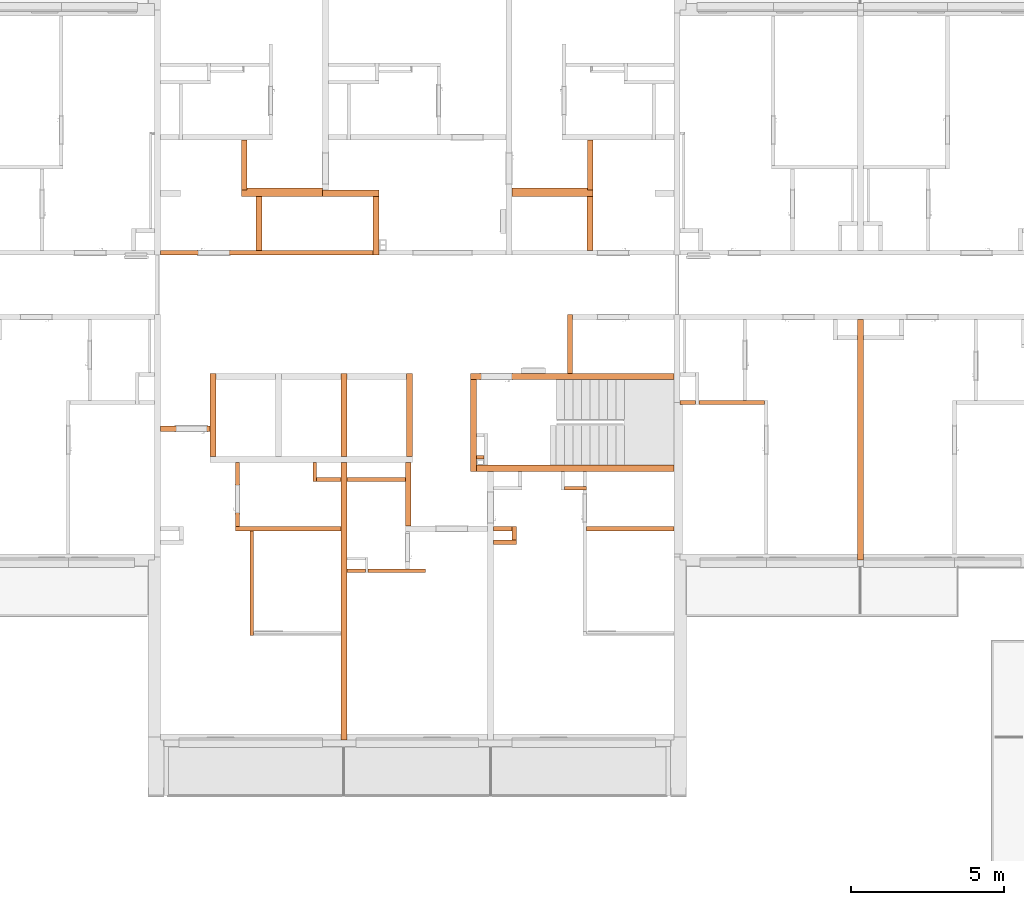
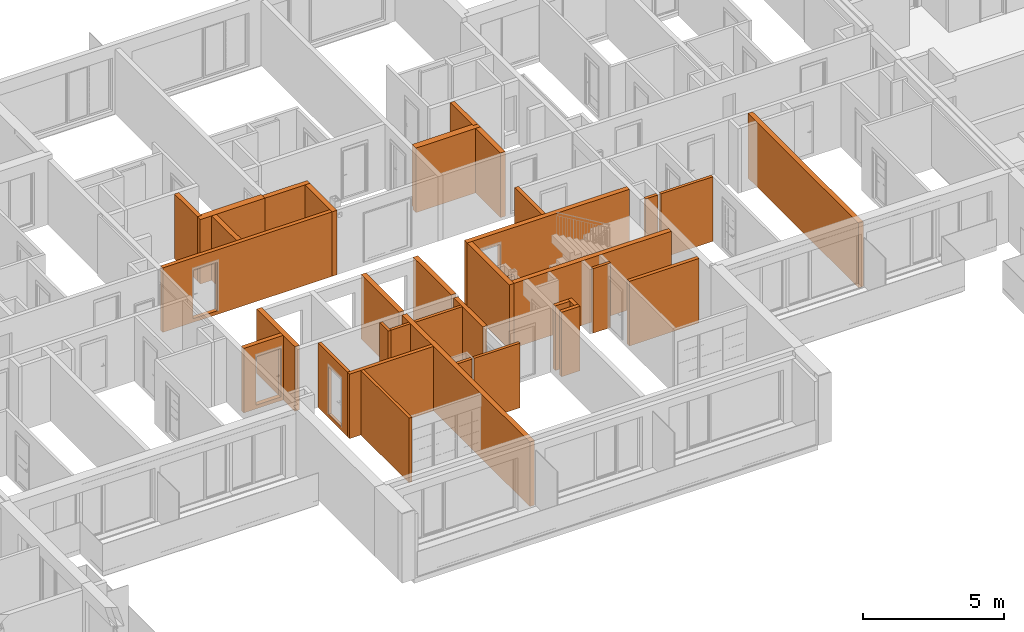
# One storey, part 55 of 64: 34 proxies, 5 openings.
"""IFC2X3 building model written with IfcOpenShell, lengths in millimetres."""

from ifc_helpers import new_model, entity, si_unit, converted_unit, derived_unit, money_unit, direction, frame, origin_with_axes, origin_2d_with_axis, place, context, subcontext, project, spatial, rectangle, extrude, faceted_brep, material, material_list, type_object, element, save


model = new_model("IFC2X3")

# Units and contexts
model_context = context("Model", 3, precision=0.01, world=origin_with_axes(), true_north=direction((0.34421633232, 0.938890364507)))
body_context = subcontext(model_context, "Body", "Model", "MODEL_VIEW")
ifc_project = project(units=[si_unit("LENGTHUNIT", "METRE", prefix="MILLI"), si_unit("AREAUNIT", "SQUARE_METRE"), si_unit("VOLUMEUNIT", "CUBIC_METRE"), converted_unit("PLANEANGLEUNIT", "DEGREE", entity("IfcPlaneAngleMeasure", 0.0174532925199), si_unit("PLANEANGLEUNIT", "RADIAN"), dimensions=[0, 0, 0, 0, 0, 0, 0]), si_unit("SOLIDANGLEUNIT", "STERADIAN"), money_unit("USD"), converted_unit("TIMEUNIT", "Year", entity("IfcTimeMeasure", 31556926.0), si_unit("TIMEUNIT", "SECOND"), dimensions=[0, 0, 1, 0, 0, 0, 0]), si_unit("MASSUNIT", "GRAM", prefix="KILO"), si_unit("THERMODYNAMICTEMPERATUREUNIT", "DEGREE_CELSIUS"), si_unit("LUMINOUSINTENSITYUNIT", "LUMEN"), si_unit("ENERGYUNIT", "JOULE", prefix="MEGA"), derived_unit("THERMALCONDUCTANCEUNIT", [(si_unit("POWERUNIT", "WATT"), 1), (si_unit("LENGTHUNIT", "METRE"), -1), (si_unit("THERMODYNAMICTEMPERATUREUNIT", "KELVIN"), -1)]), derived_unit("SPECIFICHEATCAPACITYUNIT", [(si_unit("ENERGYUNIT", "JOULE"), 1), (si_unit("MASSUNIT", "GRAM", prefix="KILO"), -1), (si_unit("THERMODYNAMICTEMPERATUREUNIT", "KELVIN"), -1)]), derived_unit("MASSDENSITYUNIT", [(si_unit("MASSUNIT", "GRAM", prefix="KILO"), 1), (si_unit("VOLUMEUNIT", "CUBIC_METRE"), -1)])], contexts=[model_context])

# Site, building, storey
site_placement = place(None, origin_with_axes())
site = spatial("IfcSite", under=ifc_project, at=site_placement, Name="USTRONIE MORSKIE", CompositionType="ELEMENT")
building_placement = place(site_placement, origin_with_axes())
building = spatial("IfcBuilding", under=site, at=building_placement, Name="Budynek", CompositionType="ELEMENT")
storey_placement = place(building_placement, frame((0.0, 0.0, 7000.0), z_axis=(0.0, 0.0, 1.0), x_axis=(1.0, 0.0, 0.0)))
storey = spatial("IfcBuildingStorey", under=building, at=storey_placement, Name="PIĘTRO 2", CompositionType="ELEMENT", Elevation=7000.0)

# Proxies
ifc_material_1 = material(Name="Bloczki silikatowe")
building_element_proxy_type_1 = type_object("IfcBuildingElementProxyType", Name="Bloczki silikatowe 120", PredefinedType="NOTDEFINED")
proxy_1_placement = place(storey_placement, frame((396317.920919, 731951.199132, -160.0), z_axis=(0.0, 0.0, 1.0), x_axis=(1.0, 0.0, 0.0)))
element("IfcBuildingElementProxy", 1, at=proxy_1_placement, inside=storey, type_object=building_element_proxy_type_1, material=ifc_material_1, Name="SW-04", context=body_context, shape_type="Brep", body=[
    faceted_brep([(600.004475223, 59.9999999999, 0.0), (100.0, 59.9999999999, 0.0), (100.0, 59.9999999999, 2800.0), (600.004475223, 59.9999999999, 2800.0), (100.0, -59.9999999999, 0.0), (100.0, 0.0, 0.0), (600.008213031, -59.9999999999, 0.0), (100.0, 0.0, 2800.0), (100.0, -59.9999999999, 2800.0), (600.008213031, -59.9999999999, 2800.0)], [[[0, 1, 2, 3]], [[4, 5, 1, 0, 6]], [[5, 7, 2, 1]], [[2, 7, 8, 9, 3]], [[6, 0, 3, 9]], [[4, 8, 7, 5]], [[9, 8, 4, 6]]]),
    faceted_brep([(720.004475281, 59.9999999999, 0.0), (720.004475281, 59.9999999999, 2800.0), (2860.01935038, 59.9999999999, 2800.0), (2860.01935038, 59.9999999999, 0.0), (720.008213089, -59.9999999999, 2800.0), (720.008213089, -59.9999999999, 0.0), (2860.01935038, -59.9999999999, 2800.0), (2860.01935038, -59.9999999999, 0.0)], [[[0, 1, 2, 3]], [[4, 1, 0, 5]], [[1, 4, 6, 2]], [[3, 2, 6, 7]], [[5, 0, 3, 7]], [[4, 5, 7, 6]]]),
])
proxy_2_placement = place(storey_placement, frame((384517.920018, 729491.199036, -160.0), z_axis=(0.0, 0.0, 1.0), x_axis=(0.0, 1.0, 0.0)))
element("IfcBuildingElementProxy", 2, at=proxy_2_placement, inside=storey, type_object=building_element_proxy_type_1, material=ifc_material_1, Name="SW-04", context=body_context, shape_type="Brep", body=[
    faceted_brep([(500.0, 120.0, 0.0), (500.0, 0.0, 0.0), (-120.0, 0.0, 0.0), (-120.0, 120.0, 0.0), (500.0, 120.0, 2800.0), (500.0, 0.0, 2800.0), (-120.0, 0.0, 2800.0), (-120.0, 120.0, 2800.0)], [[[0, 1, 2, 3]], [[1, 0, 4, 5]], [[1, 5, 6, 2]], [[7, 3, 2, 6]], [[4, 0, 3, 7]], [[5, 4, 7, 6]]]),
])
proxy_3_placement = place(storey_placement, frame((387527.920919, 729491.199036, -160.0), z_axis=(0.0, 0.0, 1.0), x_axis=(-1.0, 0.0, 0.0)))
element("IfcBuildingElementProxy", 3, at=proxy_3_placement, inside=storey, type_object=building_element_proxy_type_1, material=ifc_material_1, Name="SW-04", context=body_context, shape_type="Brep", body=[
    faceted_brep([(90.0, 0.0, 0.0), (2010.0, 0.0, 0.0), (2010.0, 0.0, 2800.0), (90.0, 0.0, 2800.0), (90.0, 120.0, 0.0), (2010.0, 120.0, 0.0), (2010.0, 120.0, 2800.0), (90.0, 120.0, 2800.0)], [[[0, 1, 2, 3]], [[4, 5, 1, 0]], [[5, 6, 2, 1]], [[3, 2, 6, 7]], [[7, 4, 0, 3]], [[7, 6, 5, 4]]]),
])
proxy_4_placement = place(storey_placement, frame((385417.920919, 726446.199036, -160.0), z_axis=(0.0, 0.0, 1.0), x_axis=(1.0, 0.0, 0.0)))
element("IfcBuildingElementProxy", 4, at=proxy_4_placement, inside=storey, type_object=building_element_proxy_type_1, material=ifc_material_1, Name="SW-04", context=body_context, shape_type="Brep", body=[
    faceted_brep([(700.000154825, 59.9999999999, 0.0), (700.000154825, -59.9999999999, 0.0), (100.0, -59.9999999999, 0.0), (100.0, 59.9999999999, 0.0), (700.000154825, 59.9999999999, 2800.0), (700.000154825, -59.9999999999, 2800.0), (100.0, -59.9999999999, 2800.0), (100.0, 59.9999999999, 2800.0)], [[[0, 1, 2, 3]], [[1, 0, 4, 5]], [[1, 5, 6, 2]], [[7, 3, 2, 6]], [[4, 0, 3, 7]], [[5, 4, 7, 6]]]),
    faceted_brep([(780.000154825, 59.9999999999, 0.0), (2670.0, 59.9999999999, 0.0), (2670.0, -59.9999999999, 0.0), (780.000154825, -59.9999999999, 0.0), (780.000154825, 59.9999999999, 2800.0), (2670.0, 59.9999999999, 2800.0), (2670.0, -59.9999999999, 2800.0), (780.000154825, -59.9999999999, 2800.0)], [[[0, 1, 2, 3]], [[4, 5, 1, 0]], [[2, 1, 5, 6]], [[3, 2, 6, 7]], [[4, 0, 3, 7]], [[7, 6, 5, 4]]]),
])

# Proxy, opening
proxy_5_placement = place(storey_placement, frame((381937.920919, 727826.199036, -160.0), z_axis=(0.0, 0.0, 1.0), x_axis=(0.0, 1.0, 0.0)))
proxy_5 = element("IfcBuildingElementProxy", 5, at=proxy_5_placement, inside=storey, type_object=building_element_proxy_type_1, material=ifc_material_1, Name="SW-04", context=body_context, shape_type="Brep", body=[
    faceted_brep([(2165.0, 60.0, 0.0), (2165.0, -60.0, 0.0), (75.0, -60.0, 0.0), (75.0, 60.0, 0.0), (2165.0, 60.0, 2800.0), (2165.0, -60.0, 2800.0), (75.0, -60.0, 2800.0), (75.0, 60.0, 2800.0)], [[[0, 1, 2, 3]], [[1, 0, 4, 5]], [[1, 5, 6, 2]], [[7, 3, 2, 6]], [[4, 0, 3, 7]], [[5, 4, 7, 6]]]),
])
opening_1_placement = place(proxy_5_placement, frame((965.0, 0.0, 160.0), z_axis=(0.0, 0.0, 1.0), x_axis=(1.0, 0.0, 0.0)))
element("IfcOpeningElement", 6, at=opening_1_placement, cuts=proxy_5, Name="Dw.4", context=body_context, shape_type="SweptSolid", body=[
    extrude(rectangle(XDim=920.0, YDim=2070.0, at=origin_2d_with_axis()), frame((0.0, -120.0, 1035.0), z_axis=(0.0, 1.0, 0.0), x_axis=(1.0, 0.0, 0.0)), (0.0, 0.0, 1.0), 360.0),
    extrude(rectangle(XDim=994.0, YDim=2177.0, at=origin_2d_with_axis()), frame((0.0, -60.0, 1088.5), z_axis=(0.0, 1.0, 0.0), x_axis=(1.0, 0.0, 0.0)), (0.0, 0.0, -1.0), 120.0),
    extrude(rectangle(XDim=994.0, YDim=2177.0, at=origin_2d_with_axis()), frame((0.0, 60.0, 1088.5), z_axis=(0.0, -1.0, 0.0), x_axis=(1.0, 0.0, 0.0)), (0.0, 0.0, -1.0), 120.0),
])

# Proxies
proxy_6_placement = place(storey_placement, frame((392637.920919, 729201.199036, -160.0), z_axis=(0.0, 0.0, 1.0), x_axis=(1.0, 0.0, 0.0)))
element("IfcBuildingElementProxy", 7, at=proxy_6_placement, inside=storey, type_object=building_element_proxy_type_1, material=ifc_material_1, Name="SW-04", context=body_context, shape_type="Brep", body=[
    faceted_brep([(720.0, -120.0, 2800.0), (720.0, 0.0, 2800.0), (0.0, 0.0, 2800.0), (0.0, -120.0, 2800.0), (720.0, -120.0, 0.0), (720.0, 0.0, 0.0), (0.0, 0.0, 0.0), (0.0, -120.0, 0.0)], [[[0, 1, 2, 3]], [[1, 0, 4, 5]], [[1, 5, 6, 2]], [[7, 3, 2, 6]], [[4, 0, 3, 7]], [[5, 4, 7, 6]]]),
])
proxy_7_placement = place(storey_placement, frame((385417.920919, 729491.199036, -160.0), z_axis=(0.0, 0.0, 1.0), x_axis=(-1.0, 0.0, 0.0)))
element("IfcBuildingElementProxy", 8, at=proxy_7_placement, inside=storey, type_object=building_element_proxy_type_1, material=ifc_material_1, Name="SW-04", context=body_context, shape_type="Brep", body=[
    faceted_brep([(900.00090117, 120.0, 0.0), (900.00090117, 0.0, 0.0), (100.0, 0.0, 0.0), (100.0, 120.0, 0.0), (900.00090117, 120.0, 2800.0), (900.00090117, 0.0, 2800.0), (100.0, 0.0, 2800.0), (100.0, 120.0, 2800.0)], [[[0, 1, 2, 3]], [[1, 0, 4, 5]], [[1, 5, 6, 2]], [[7, 3, 2, 6]], [[4, 0, 3, 7]], [[5, 4, 7, 6]]]),
])
proxy_8_placement = place(storey_placement, frame((382397.920919, 724391.199036, -160.0), z_axis=(0.0, 0.0, 1.0), x_axis=(0.0, 1.0, 0.0)))
element("IfcBuildingElementProxy", 9, at=proxy_8_placement, inside=storey, type_object=building_element_proxy_type_1, material=ifc_material_1, Name="SW-04", context=body_context, shape_type="Brep", body=[
    faceted_brep([(3360.0, 60.0, 0.0), (3360.0, -60.0, 0.0), (-59.9999999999, -60.0, 0.0), (-59.9999999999, 60.0, 0.0), (3360.0, 60.0, 2800.0), (3360.0, -60.0, 2800.0), (-59.9999999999, -60.0, 2800.0), (-59.9999999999, 60.0, 2800.0)], [[[0, 1, 2, 3]], [[1, 0, 4, 5]], [[1, 5, 6, 2]], [[7, 3, 2, 6]], [[4, 0, 3, 7]], [[5, 4, 7, 6]]]),
])
proxy_9_placement = place(storey_placement, frame((389657.920919, 730101.199036, -230.0), z_axis=(0.0, 0.0, 1.0), x_axis=(1.0, 0.0, 0.0)))
element("IfcBuildingElementProxy", 10, at=proxy_9_placement, inside=storey, type_object=building_element_proxy_type_1, material=ifc_material_1, Name="SW-04", context=body_context, shape_type="Brep", body=[
    faceted_brep([(350.0, 0.0, 2870.0), (350.0, 0.0, 70.0), (350.0, 120.0, 70.0), (350.0, 120.0, 2870.0), (100.0, 0.0, 2870.0), (100.0, 0.0, 70.0), (100.0, 120.0, 70.0), (100.0, 120.0, 2870.0)], [[[0, 1, 2, 3]], [[4, 5, 1, 0]], [[5, 6, 2, 1]], [[3, 2, 6, 7]], [[0, 3, 7, 4]], [[7, 6, 5, 4]]]),
])
building_element_proxy_type_2 = type_object("IfcBuildingElementProxyType", Name="Bloczki silikatowe 180", PredefinedType="NOTDEFINED")
proxy_10_placement = place(storey_placement, frame((382067.920919, 738801.199036, -160.0), z_axis=(0.0, 0.0, 1.0), x_axis=(0.0, 1.0, 0.0)))
element("IfcBuildingElementProxy", 11, at=proxy_10_placement, inside=storey, type_object=building_element_proxy_type_2, material=ifc_material_1, Name="SW-02", context=body_context, shape_type="Brep", body=[
    faceted_brep([(1740.0, 0.0, 0.0), (1740.0, 0.0, 2800.0), (1740.0, -180.0, 2800.0), (1740.0, -180.0, 0.0), (100.0, 0.0, 0.0), (100.0, 0.0, 2800.0), (100.0, -180.0, 2800.0), (100.0, -180.0, 0.0)], [[[0, 1, 2, 3]], [[4, 5, 1, 0]], [[5, 6, 2, 1]], [[3, 2, 6, 7]], [[0, 3, 7, 4]], [[7, 6, 5, 4]]]),
])
proxy_11_placement = place(storey_placement, frame((393567.920919, 738801.199036, -160.0), z_axis=(0.0, 0.0, 1.0), x_axis=(0.0, 1.0, 0.0)))
element("IfcBuildingElementProxy", 12, at=proxy_11_placement, inside=storey, type_object=building_element_proxy_type_2, material=ifc_material_1, Name="SW-02", context=body_context, shape_type="Brep", body=[
    faceted_brep([(1740.0, 180.0, 0.0), (1740.0, 180.0, 2800.0), (1740.0, 0.0, 2800.0), (1740.0, 0.0, 0.0), (100.0, 180.0, 0.0), (100.0, 180.0, 2800.0), (100.0, 0.0, 2800.0), (100.0, 0.0, 0.0)], [[[0, 1, 2, 3]], [[4, 5, 1, 0]], [[5, 6, 2, 1]], [[3, 2, 6, 7]], [[4, 0, 3, 7]], [[7, 6, 5, 4]]]),
])

# Proxy, opening
proxy_12_placement = place(storey_placement, frame((381137.920919, 731101.199132, -160.0), z_axis=(0.0, 0.0, 1.0), x_axis=(-1.0, 0.0, 0.0)))
proxy_12 = element("IfcBuildingElementProxy", 13, at=proxy_12_placement, inside=storey, type_object=building_element_proxy_type_2, material=ifc_material_1, Name="SW-02", context=body_context, shape_type="Brep", body=[
    faceted_brep([(1720.0, -90.0, 0.0), (1720.0, -90.0, 2800.0), (100.0, -90.0, 2800.0), (100.0, -90.0, 0.0), (1720.0, 90.0, 0.0), (1720.0, 90.0, 2800.0), (100.0, 90.0, 2800.0), (100.0, 90.0, 0.0)], [[[0, 1, 2, 3]], [[4, 5, 1, 0]], [[5, 6, 2, 1]], [[3, 2, 6, 7]], [[4, 0, 3, 7]], [[7, 6, 5, 4]]]),
])
opening_2_placement = place(proxy_12_placement, frame((710.0, 0.0, 160.0), z_axis=(0.0, 0.0, 1.0), x_axis=(1.0, 0.0, 0.0)))
element("IfcOpeningElement", 14, at=opening_2_placement, cuts=proxy_12, Name="Dw.1", context=body_context, shape_type="SweptSolid", body=[
    extrude(rectangle(XDim=1020.0, YDim=2120.0, at=origin_2d_with_axis()), frame((0.0, -180.0, 1060.0), z_axis=(0.0, 1.0, 0.0), x_axis=(1.0, 0.0, 0.0)), (0.0, 0.0, 1.0), 540.0),
    extrude(rectangle(XDim=1094.0, YDim=2227.0, at=origin_2d_with_axis()), frame((0.0, -90.0, 1113.5), z_axis=(0.0, 1.0, 0.0), x_axis=(1.0, 0.0, 0.0)), (0.0, 0.0, -1.0), 180.0),
    extrude(rectangle(XDim=1094.0, YDim=2227.0, at=origin_2d_with_axis()), frame((0.0, 89.9999999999, 1113.5), z_axis=(0.0, -1.0, 0.0), x_axis=(1.0, 0.0, 0.0)), (0.0, 0.0, -1.0), 180.0),
])

proxy_13_placement = place(storey_placement, frame((387527.920919, 730091.199036, -160.0), z_axis=(0.0, 0.0, 1.0), x_axis=(0.0, -1.0, 0.0)))
proxy_13 = element("IfcBuildingElementProxy", 15, at=proxy_13_placement, inside=storey, type_object=building_element_proxy_type_2, material=ifc_material_1, Name="SW-02", context=body_context, shape_type="Brep", body=[
    faceted_brep([(2175.0, 90.0, 0.0), (2175.0, -90.0, 0.0), (100.0, -90.0, 0.0), (100.0, 90.0, 0.0), (2175.0, 90.0, 2800.0), (2175.0, -90.0, 2800.0), (100.0, -90.0, 2800.0), (100.0, 90.0, 2800.0)], [[[0, 1, 2, 3]], [[1, 0, 4, 5]], [[1, 5, 6, 2]], [[7, 3, 2, 6]], [[4, 0, 3, 7]], [[5, 4, 7, 6]]]),
])
opening_3_placement = place(proxy_13_placement, frame((350.0, 0.0, 560.0), z_axis=(0.0, 0.0, 1.0), x_axis=(1.0, 0.0, 0.0)))
element("IfcOpeningElement", 16, at=opening_3_placement, cuts=proxy_13, Name="R.01", context=body_context, shape_type="SweptSolid", body=[
    extrude(rectangle(XDim=500.001816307, YDim=1600.0, at=origin_2d_with_axis()), frame((0.0, 90.0, 800.0), z_axis=(0.0, -1.0, 0.0), x_axis=(1.0, 0.0, 0.0)), (0.0, 0.0, -1.0), 180.0),
    extrude(rectangle(XDim=500.001816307, YDim=1600.0, at=origin_2d_with_axis()), frame((0.0, 90.0, 800.0), z_axis=(0.0, 1.0, 0.0), x_axis=(1.0, 0.0, 0.0)), (0.0, 0.0, -1.0), 180.0),
])

# Proxies
building_element_proxy_type_3 = type_object("IfcBuildingElementProxyType", Name="Bloczki silikatowe 150", PredefinedType="NOTDEFINED")
proxy_14_placement = place(storey_placement, frame((385417.920919, 727826.199036, -160.0), z_axis=(0.0, 0.0, 1.0), x_axis=(-1.0, 0.0, 0.0)))
element("IfcBuildingElementProxy", 17, at=proxy_14_placement, inside=storey, type_object=building_element_proxy_type_3, material=ifc_material_1, Name="SW-03", context=body_context, shape_type="Brep", body=[
    faceted_brep([(3540.0, 75.0, 0.0), (3540.0, -75.0, 0.0), (100.0, -75.0, 0.0), (100.0, 75.0, 0.0), (3540.0, 75.0, 2800.0), (3540.0, -75.0, 2800.0), (100.0, -75.0, 2800.0), (100.0, 75.0, 2800.0)], [[[0, 1, 2, 3]], [[1, 0, 4, 5]], [[1, 5, 6, 2]], [[7, 3, 2, 6]], [[4, 0, 3, 7]], [[5, 4, 7, 6]]]),
])
proxy_15_placement = place(storey_placement, frame((390217.920919, 727451.199036, -160.0), z_axis=(0.0, 0.0, 1.0), x_axis=(1.0, 0.0, 0.0)))
element("IfcBuildingElementProxy", 18, at=proxy_15_placement, inside=storey, type_object=building_element_proxy_type_3, material=ifc_material_1, Name="SW-03", context=body_context, shape_type="Brep", body=[
    faceted_brep([(850.00090117, -150.0, 2800.0), (850.00090117, 0.0, 2800.0), (100.0, 0.0, 2800.0), (100.0, -150.0, 2800.0), (850.00090117, -150.0, 0.0), (850.00090117, 0.0, 0.0), (100.0, 0.0, 0.0), (100.0, -150.0, 0.0)], [[[0, 1, 2, 3]], [[1, 0, 4, 5]], [[1, 5, 6, 2]], [[7, 3, 2, 6]], [[4, 0, 3, 7]], [[5, 4, 7, 6]]]),
])
proxy_16_placement = place(storey_placement, frame((390217.920919, 727751.199036, -160.0), z_axis=(0.0, 0.0, 1.0), x_axis=(1.0, 0.0, 0.0)))
element("IfcBuildingElementProxy", 19, at=proxy_16_placement, inside=storey, type_object=building_element_proxy_type_3, material=ifc_material_1, Name="SW-03", context=body_context, shape_type="Brep", body=[
    faceted_brep([(700.00090117, 150.0, 0.0), (700.00090117, 0.0, 0.0), (100.0, 0.0, 0.0), (100.0, 150.0, 0.0), (700.00090117, 150.0, 2800.0), (700.00090117, 0.0, 2800.0), (100.0, 0.0, 2800.0), (100.0, 150.0, 2800.0)], [[[0, 1, 2, 3]], [[1, 0, 4, 5]], [[1, 5, 6, 2]], [[7, 3, 2, 6]], [[4, 0, 3, 7]], [[5, 4, 7, 6]]]),
])
proxy_17_placement = place(storey_placement, frame((390917.92182, 727451.199036, -160.0), z_axis=(0.0, 0.0, 1.0), x_axis=(0.0, 1.0, 0.0)))
element("IfcBuildingElementProxy", 20, at=proxy_17_placement, inside=storey, type_object=building_element_proxy_type_3, material=ifc_material_1, Name="SW-03", context=body_context, shape_type="Brep", body=[
    faceted_brep([(450.0, -150.0, 2800.0), (450.0, 0.0, 2800.0), (0.0, 0.0, 2800.0), (0.0, -150.0, 2800.0), (450.0, -150.0, 0.0), (450.0, 0.0, 0.0), (0.0, 0.0, 0.0), (0.0, -150.0, 0.0)], [[[0, 1, 2, 3]], [[1, 0, 4, 5]], [[1, 5, 6, 2]], [[7, 3, 2, 6]], [[4, 0, 3, 7]], [[5, 4, 7, 6]]]),
])
proxy_18_placement = place(storey_placement, frame((396317.920919, 727826.199036, -160.0), z_axis=(0.0, 0.0, 1.0), x_axis=(-1.0, 0.0, 0.0)))
element("IfcBuildingElementProxy", 21, at=proxy_18_placement, inside=storey, type_object=building_element_proxy_type_3, material=ifc_material_1, Name="SW-03", context=body_context, shape_type="Brep", body=[
    faceted_brep([(2960.0, 75.0, 0.0), (2960.0, -75.0, 0.0), (100.0, -75.0, 0.0), (100.0, 75.0, 0.0), (2960.0, 75.0, 2800.0), (2960.0, -75.0, 2800.0), (100.0, -75.0, 2800.0), (100.0, 75.0, 2800.0)], [[[0, 1, 2, 3]], [[1, 0, 4, 5]], [[1, 5, 6, 2]], [[7, 3, 2, 6]], [[4, 0, 3, 7]], [[5, 4, 7, 6]]]),
])
ifc_material_2 = material(Name="Beton konstrukcyjny B25")
building_element_proxy_type_4 = type_object("IfcBuildingElementProxyType", Name="Beton konstrukcyjny B25 200", PredefinedType="NOTDEFINED")
proxy_19_placement = place(storey_placement, frame((386467.920919, 738801.199036, -160.0), z_axis=(0.0, 0.0, 1.0), x_axis=(-1.0, 0.0, 0.0)))
element("IfcBuildingElementProxy", 22, at=proxy_19_placement, inside=storey, type_object=building_element_proxy_type_4, material=ifc_material_2, Name="SW-01", context=body_context, shape_type="Brep", body=[
    faceted_brep([(-100.0, -100.0, 2800.0), (1750.0, -100.0, 2800.0), (1750.0, 100.0, 2800.0), (-100.0, 100.0, 2800.0), (-100.0, -100.0, 0.0), (1750.0, -100.0, 0.0), (1750.0, 100.0, 0.0), (-100.0, 100.0, 0.0)], [[[0, 1, 2, 3]], [[4, 5, 1, 0]], [[2, 1, 5, 6]], [[3, 2, 6, 7]], [[4, 0, 3, 7]], [[7, 6, 5, 4]]]),
])
proxy_20_placement = place(storey_placement, frame((386467.920919, 738801.199036, -160.0), z_axis=(0.0, 0.0, 1.0), x_axis=(0.0, -1.0, 0.0)))
element("IfcBuildingElementProxy", 23, at=proxy_20_placement, inside=storey, type_object=building_element_proxy_type_4, material=ifc_material_2, Name="SW-01", context=body_context, shape_type="Brep", body=[
    faceted_brep([(100.0, -100.0, 2800.0), (2030.0, -100.0, 2800.0), (2030.0, 100.0, 2800.0), (100.0, 100.0, 2800.0), (100.0, -100.0, 0.0), (2030.0, -100.0, 0.0), (2030.0, 100.0, 0.0), (100.0, 100.0, 0.0)], [[[0, 1, 2, 3]], [[4, 5, 1, 0]], [[6, 2, 1, 5]], [[3, 2, 6, 7]], [[7, 4, 0, 3]], [[7, 6, 5, 4]]]),
])

# Proxy, opening
proxy_21_placement = place(storey_placement, frame((389657.920919, 732801.199036, -160.0), z_axis=(0.0, 0.0, 1.0), x_axis=(1.0, 0.0, 0.0)))
proxy_21 = element("IfcBuildingElementProxy", 24, at=proxy_21_placement, inside=storey, type_object=building_element_proxy_type_4, material=ifc_material_2, Name="SW-01", context=body_context, shape_type="Brep", body=[
    faceted_brep([(-100.0, 100.0, 2800.0), (0.0, 100.0, 2800.0), (6560.0, 100.0, 2800.0), (6560.0, 100.0, 0.0), (-100.0, 100.0, 0.0), (-100.0, -100.0, 2800.0), (0.0, -100.0, 2800.0), (6560.0, -100.0, 2800.0), (6560.0, -100.0, 0.0), (-100.0, -100.0, 0.0)], [[[0, 1, 2, 3, 4]], [[5, 6, 1, 0]], [[6, 7, 2, 1]], [[3, 2, 7, 8]], [[3, 8, 9, 4]], [[4, 9, 5, 0]], [[8, 7, 6, 5, 9]]]),
])
opening_4_placement = place(proxy_21_placement, frame((750.0, 0.0, 160.0), z_axis=(0.0, 0.0, 1.0), x_axis=(1.0, 0.0, 0.0)))
element("IfcOpeningElement", 25, at=opening_4_placement, cuts=proxy_21, Name="Dw.1'", context=body_context, shape_type="SweptSolid", body=[
    extrude(rectangle(XDim=1020.0, YDim=2120.0, at=origin_2d_with_axis()), frame((0.0, 200.0, 1060.0), z_axis=(0.0, -1.0, 0.0), x_axis=(-1.0, 0.0, 0.0)), (0.0, 0.0, 1.0), 600.0),
    extrude(rectangle(XDim=1094.0, YDim=2227.0, at=origin_2d_with_axis()), frame((0.0, 100.0, 1113.5), z_axis=(0.0, -1.0, 0.0), x_axis=(-1.0, 0.0, 0.0)), (0.0, 0.0, -1.0), 200.0),
    extrude(rectangle(XDim=1094.0, YDim=2227.0, at=origin_2d_with_axis()), frame((0.0, -100.0, 1113.5), z_axis=(0.0, 1.0, 0.0), x_axis=(-1.0, 0.0, 0.0)), (0.0, 0.0, -1.0), 200.0),
])

# Proxies
proxy_22_placement = place(storey_placement, frame((385417.920919, 730091.199036, -160.0), z_axis=(0.0, 0.0, 1.0), x_axis=(0.0, -1.0, 0.0)))
element("IfcBuildingElementProxy", 26, at=proxy_22_placement, inside=storey, type_object=building_element_proxy_type_4, material=ifc_material_2, Name="SW-01", context=body_context, shape_type="Brep", body=[
    faceted_brep([(100.0, -100.0, 2800.0), (9190.0, -100.0, 2800.0), (9190.0, 100.0, 2800.0), (100.0, 100.0, 2800.0), (100.0, -100.0, 0.0), (9190.0, -100.0, 0.0), (9190.0, 100.0, 0.0), (100.0, 100.0, 0.0)], [[[0, 1, 2, 3]], [[4, 5, 1, 0]], [[6, 2, 1, 5]], [[3, 2, 6, 7]], [[7, 4, 0, 3]], [[7, 6, 5, 4]]]),
])
proxy_23_placement = place(storey_placement, frame((389657.920919, 729801.199036, -160.0), z_axis=(0.0, 0.0, 1.0), x_axis=(0.0, 1.0, 0.0)))
element("IfcBuildingElementProxy", 27, at=proxy_23_placement, inside=storey, type_object=building_element_proxy_type_4, material=ifc_material_2, Name="SW-01", context=body_context, shape_type="Brep", body=[
    faceted_brep([(2900.0, -100.0, 2800.0), (2900.0, 100.0, 2800.0), (-100.0, 100.0, 2800.0), (-100.0, -100.0, 2800.0), (2900.0, -100.0, 0.0), (2900.0, 100.0, 0.0), (-100.0, 100.0, 0.0), (-100.0, -100.0, 0.0)], [[[0, 1, 2, 3]], [[1, 0, 4, 5]], [[1, 5, 6, 2]], [[7, 3, 2, 6]], [[4, 0, 3, 7]], [[5, 4, 7, 6]]]),
])
proxy_24_placement = place(storey_placement, frame((393367.920919, 736851.199036, -160.0), z_axis=(0.0, 0.0, 1.0), x_axis=(0.0, 1.0, 0.0)))
element("IfcBuildingElementProxy", 28, at=proxy_24_placement, inside=storey, type_object=building_element_proxy_type_4, material=ifc_material_2, Name="SW-01", context=body_context, shape_type="Brep", body=[
    faceted_brep([(1850.0, 0.0, 0.0), (1850.0, 0.0, 2800.0), (1850.0, -200.0, 2800.0), (1850.0, -200.0, 0.0), (80.0, 0.0, 0.0), (80.0, 0.0, 2800.0), (80.0, -200.0, 2800.0), (80.0, -200.0, 0.0)], [[[0, 1, 2, 3]], [[4, 5, 1, 0]], [[5, 6, 2, 1]], [[3, 2, 6, 7]], [[4, 0, 3, 7]], [[7, 6, 5, 4]]]),
])
proxy_25_placement = place(storey_placement, frame((402317.920919, 726901.199036, -160.0), z_axis=(0.0, 0.0, 1.0), x_axis=(0.0, 1.0, 0.0)))
element("IfcBuildingElementProxy", 29, at=proxy_25_placement, inside=storey, type_object=building_element_proxy_type_4, material=ifc_material_2, Name="SW-01", context=body_context, shape_type="Brep", body=[
    faceted_brep([(-100.0, -100.0, 2800.0), (7770.00189405, -100.0, 2800.0), (7770.00195604, 100.0, 2800.0), (-100.0, 100.0, 2800.0), (-100.0, -100.0, 0.0), (7770.00189405, -100.0, 0.0), (7770.00195604, 100.0, 0.0), (-100.0, 100.0, 0.0)], [[[0, 1, 2, 3]], [[4, 5, 1, 0]], [[6, 2, 1, 5]], [[3, 2, 6, 7]], [[7, 4, 0, 3]], [[7, 6, 5, 4]]]),
])
proxy_26_placement = place(storey_placement, frame((387557.920919, 732801.199036, -160.0), z_axis=(0.0, 0.0, 1.0), x_axis=(0.0, -1.0, 0.0)))
element("IfcBuildingElementProxy", 30, at=proxy_26_placement, inside=storey, type_object=building_element_proxy_type_4, material=ifc_material_2, Name="SW-01", context=body_context, shape_type="Brep", body=[
    faceted_brep([(2610.0, -100.0, 2800.0), (2610.0, 100.0, 2800.0), (-100.0, 100.0, 2800.0), (-100.0, -100.0, 2800.0), (2610.0, -100.0, 0.0), (2610.0, 100.0, 0.0), (-100.0, 100.0, 0.0), (-100.0, -100.0, 0.0)], [[[0, 1, 2, 3]], [[1, 0, 4, 5]], [[1, 5, 6, 2]], [[7, 3, 2, 6]], [[4, 0, 3, 7]], [[5, 4, 7, 6]]]),
])
proxy_27_placement = place(storey_placement, frame((382737.920919, 738801.199036, -160.0), z_axis=(0.0, 0.0, 1.0), x_axis=(0.0, -1.0, 0.0)))
element("IfcBuildingElementProxy", 31, at=proxy_27_placement, inside=storey, type_object=building_element_proxy_type_4, material=ifc_material_2, Name="SW-01", context=body_context, shape_type="Brep", body=[
    faceted_brep([(1870.0, -200.0, 2800.0), (1870.0, 0.0, 2800.0), (100.0, 0.0, 2800.0), (100.0, -200.0, 2800.0), (1870.0, -200.0, 0.0), (1870.0, 0.0, 0.0), (100.0, 0.0, 0.0), (100.0, -200.0, 0.0)], [[[0, 1, 2, 3]], [[1, 0, 4, 5]], [[1, 5, 6, 2]], [[7, 3, 2, 6]], [[4, 0, 3, 7]], [[5, 4, 7, 6]]]),
])
proxy_28_placement = place(storey_placement, frame((381137.920919, 732801.199036, -160.0), z_axis=(0.0, 0.0, 1.0), x_axis=(0.0, -1.0, 0.0)))
element("IfcBuildingElementProxy", 32, at=proxy_28_placement, inside=storey, type_object=building_element_proxy_type_4, material=ifc_material_2, Name="SW-01", context=body_context, shape_type="Brep", body=[
    faceted_brep([(2610.0, -100.0, 2800.0), (2610.0, 100.0, 2800.0), (-100.0, 100.0, 2800.0), (-100.0, -100.0, 2800.0), (2610.0, -100.0, 0.0), (2610.0, 100.0, 0.0), (-100.0, 100.0, 0.0), (-100.0, -100.0, 0.0)], [[[0, 1, 2, 3]], [[1, 0, 4, 5]], [[1, 5, 6, 2]], [[7, 3, 2, 6]], [[4, 0, 3, 7]], [[5, 4, 7, 6]]]),
])
proxy_29_placement = place(storey_placement, frame((385417.920919, 732801.199036, -160.0), z_axis=(0.0, 0.0, 1.0), x_axis=(0.0, -1.0, 0.0)))
element("IfcBuildingElementProxy", 33, at=proxy_29_placement, inside=storey, type_object=building_element_proxy_type_4, material=ifc_material_2, Name="SW-01", context=body_context, shape_type="Brep", body=[
    faceted_brep([(-100.0, -100.0, 2800.0), (0.0, -100.0, 2800.0), (0.0, 100.0, 2800.0), (-100.0, 100.0, 2800.0), (2610.0, -100.0, 0.0), (2610.0, -100.0, 2800.0), (-100.0, -100.0, 0.0), (2610.0, 100.0, 2800.0), (2610.0, 99.9999999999, 0.0), (-100.0, 100.0, 0.0)], [[[0, 1, 2, 3]], [[4, 5, 1, 0, 6]], [[5, 7, 2, 1]], [[3, 2, 7, 8, 9]], [[3, 9, 6, 0]], [[8, 7, 5, 4]], [[6, 9, 8, 4]]]),
])
proxy_30_placement = place(storey_placement, frame((396317.920919, 729801.199036, -160.0), z_axis=(0.0, 0.0, 1.0), x_axis=(-1.0, 0.0, 0.0)))
element("IfcBuildingElementProxy", 34, at=proxy_30_placement, inside=storey, type_object=building_element_proxy_type_4, material=ifc_material_2, Name="SW-01", context=body_context, shape_type="Brep", body=[
    faceted_brep([(100.0, -100.0, 2800.0), (100.0, -100.0, 0.0), (6560.0, -100.0, 0.0), (6560.0, -100.0, 2800.0), (100.0, 100.0, 2800.0), (100.0, 100.0, 0.0), (6560.0, 100.0, 0.0), (6560.0, 100.0, 2800.0)], [[[0, 1, 2, 3]], [[1, 0, 4, 5]], [[1, 5, 6, 2]], [[6, 7, 3, 2]], [[4, 0, 3, 7]], [[5, 4, 7, 6]]]),
])
building_element_proxy_type_5 = type_object("IfcBuildingElementProxyType", Name="Beton konstrukcyjny B25 160", PredefinedType="NOTDEFINED")
proxy_31_placement = place(storey_placement, frame((392817.920919, 732801.199036, -160.0), z_axis=(0.0, 0.0, 1.0), x_axis=(0.0, 1.0, 0.0)))
element("IfcBuildingElementProxy", 35, at=proxy_31_placement, inside=storey, type_object=building_element_proxy_type_5, material=ifc_material_2, Name="SW-01", context=body_context, shape_type="Brep", body=[
    faceted_brep([(2030.0048448, -80.0, 2800.0), (2030.0048944, 80.0, 2800.0), (100.0, 80.0, 2800.0), (100.0, -80.0, 2800.0), (2030.0048448, -80.0, 0.0), (2030.0048944, 80.0, 0.0), (100.0, 80.0, 0.0), (100.0, -80.0, 0.0)], [[[0, 1, 2, 3]], [[1, 0, 4, 5]], [[1, 5, 6, 2]], [[7, 3, 2, 6]], [[4, 0, 3, 7]], [[5, 4, 7, 6]]]),
])

# Proxy, opening
proxy_32_placement = place(storey_placement, frame((379317.920919, 736851.199036, -160.0), z_axis=(0.0, 0.0, 1.0), x_axis=(1.0, 0.0, 0.0)))
proxy_32 = element("IfcBuildingElementProxy", 36, at=proxy_32_placement, inside=storey, type_object=building_element_proxy_type_5, material=ifc_material_2, Name="SW-01", context=body_context, shape_type="Brep", body=[
    faceted_brep([(100.0, 80.0, 0.0), (7050.0, 80.0, 0.0), (7050.0, -80.0, 0.0), (100.0, -80.0, 0.0), (100.0, 80.0, 2800.0), (7050.0, 80.0, 2800.0), (7050.0, -80.0, 2800.0), (100.0, -80.0, 2800.0)], [[[0, 1, 2, 3]], [[4, 5, 1, 0]], [[6, 2, 1, 5]], [[3, 2, 6, 7]], [[7, 4, 0, 3]], [[7, 6, 5, 4]]]),
])
opening_5_placement = place(proxy_32_placement, frame((1840.0, 0.0, 160.0), z_axis=(0.0, 0.0, 1.0), x_axis=(1.0, 0.0, 0.0)))
element("IfcOpeningElement", 37, at=opening_5_placement, cuts=proxy_32, Name="Dw.2", context=body_context, shape_type="SweptSolid", body=[
    extrude(rectangle(XDim=1020.0, YDim=2120.0, at=origin_2d_with_axis()), frame((0.0, -160.0, 1060.0), z_axis=(0.0, 1.0, 0.0), x_axis=(1.0, 0.0, 0.0)), (0.0, 0.0, 1.0), 480.0),
    extrude(rectangle(XDim=1094.0, YDim=2227.0, at=origin_2d_with_axis()), frame((0.0, -80.0, 1113.5), z_axis=(0.0, 1.0, 0.0), x_axis=(1.0, 0.0, 0.0)), (0.0, 0.0, -1.0), 160.0),
    extrude(rectangle(XDim=1094.0, YDim=2227.0, at=origin_2d_with_axis()), frame((0.0, 79.9999999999, 1113.5), z_axis=(0.0, -1.0, 0.0), x_axis=(1.0, 0.0, 0.0)), (0.0, 0.0, -1.0), 160.0),
])

# Proxies
ifc_material_3 = material(Name="Izolacja akustyczna")
ifc_material_4 = material(Name="Płyta GK")
ifc_material_list_1 = material_list([ifc_material_2, ifc_material_3, ifc_material_4])
building_element_proxy_type_6 = type_object("IfcBuildingElementProxyType", Name="20+5 AKU 275", PredefinedType="NOTDEFINED")
proxy_33_placement = place(storey_placement, frame((384717.920919, 738801.199036, -160.0), z_axis=(0.0, 0.0, 1.0), x_axis=(-1.0, 0.0, 0.0)))
element("IfcBuildingElementProxy", 38, at=proxy_33_placement, inside=storey, type_object=building_element_proxy_type_6, material=ifc_material_list_1, Name="SW-01", context=body_context, shape_type="Brep", body=[
    faceted_brep([(2650.0, -100.0, 0.0), (0.0, -100.0, 0.0), (0.0, 100.0, 0.0), (2650.0, 100.0, 0.0), (2650.0, -100.0, 2800.0), (0.0, -100.0, 2800.0), (0.0, 100.0, 2800.0), (2650.0, 100.0, 2800.0)], [[[0, 1, 2, 3]], [[4, 5, 1, 0]], [[2, 1, 5, 6]], [[3, 2, 6, 7]], [[3, 7, 4, 0]], [[7, 6, 5, 4]]]),
    faceted_brep([(0.0, -100.0, 145.0), (2470.0, -100.0, 145.0), (2470.0, -150.0, 145.0), (0.0, -150.0, 145.0), (0.0, -100.0, 2800.0), (2470.0, -100.0, 2800.0), (2470.0, -150.0, 2800.0), (0.0, -150.0, 2800.0)], [[[0, 1, 2, 3]], [[1, 0, 4, 5]], [[2, 1, 5, 6]], [[2, 6, 7, 3]], [[0, 3, 7, 4]], [[6, 5, 4, 7]]]),
    faceted_brep([(0.0, -150.0, 145.0), (2470.0, -150.0, 145.0), (2470.0, -175.0, 145.0), (0.0, -175.0, 145.0), (0.0, -150.0, 2800.0), (2470.0, -150.0, 2800.0), (2470.0, -175.0, 2800.0), (0.0, -175.0, 2800.0)], [[[0, 1, 2, 3]], [[1, 0, 4, 5]], [[2, 1, 5, 6]], [[2, 6, 7, 3]], [[0, 3, 7, 4]], [[6, 5, 4, 7]]]),
])
ifc_material_list_2 = material_list([ifc_material_4, ifc_material_3, ifc_material_2])
proxy_34_placement = place(storey_placement, frame((390817.920919, 738801.199036, -160.0), z_axis=(0.0, 0.0, 1.0), x_axis=(1.0, 0.0, 0.0)))
element("IfcBuildingElementProxy", 39, at=proxy_34_placement, inside=storey, type_object=building_element_proxy_type_6, material=ifc_material_list_2, Name="SW-01", context=body_context, shape_type="Brep", body=[
    faceted_brep([(2570.0, 150.0, 145.0), (2570.0, 175.0, 145.0), (2570.0, 175.0, 2800.0), (2570.0, 150.0, 2800.0), (100.0, 175.0, 145.0), (100.0, 150.0, 145.0), (100.0, 175.0, 2800.0), (100.0, 150.0, 2800.0)], [[[0, 1, 2, 3]], [[4, 1, 0, 5]], [[1, 4, 6, 2]], [[3, 2, 6, 7]], [[5, 0, 3, 7]], [[4, 5, 7, 6]]]),
    faceted_brep([(2570.0, 100.0, 145.0), (2570.0, 150.0, 145.0), (2570.0, 150.0, 2800.0), (2570.0, 100.0, 2800.0), (100.0, 150.0, 145.0), (100.0, 100.0, 145.0), (100.0, 150.0, 2800.0), (100.0, 100.0, 2800.0)], [[[0, 1, 2, 3]], [[4, 1, 0, 5]], [[1, 4, 6, 2]], [[3, 2, 6, 7]], [[5, 0, 3, 7]], [[4, 5, 7, 6]]]),
    faceted_brep([(100.0, 100.0, 2800.0), (2750.0, 100.0, 2800.0), (2750.0, 100.0, 0.0), (100.0, 100.0, 0.0), (2750.0, -100.0, 2800.0), (100.0, -100.0, 2800.0), (2750.0, -100.0, 0.0), (100.0, -100.0, 0.0)], [[[0, 1, 2, 3]], [[4, 1, 0, 5]], [[1, 4, 6, 2]], [[6, 7, 3, 2]], [[5, 0, 3, 7]], [[4, 5, 7, 6]]]),
])

save(model, "model.ifc")
